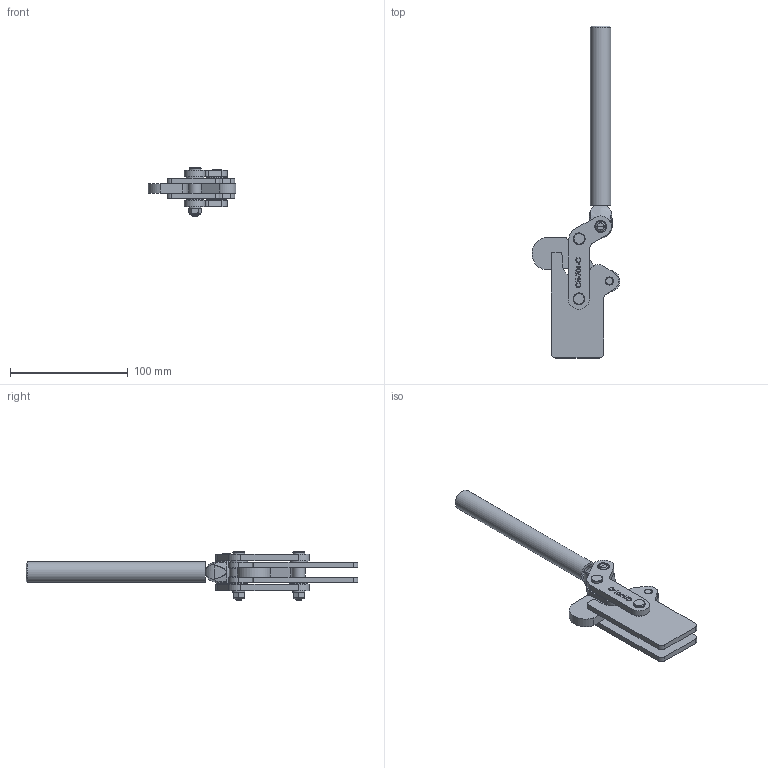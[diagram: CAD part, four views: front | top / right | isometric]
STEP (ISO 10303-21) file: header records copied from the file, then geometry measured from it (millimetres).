
FILE_DESCRIPTION(/* description */ ('STEP AP203'),/* implementation_level */ '2;1');
FILE_NAME(/* name */ 'D:\Vault_2016\Projekty\NASZ KATALOG\CLAMPTEK\STRONA\Heavy duty weldables\CH-701-C\CH-701-C_ZAMKNIETY.stp',/* time_stamp */ '2019-01-14T12:13:45+01:00',/* author */ ('CADENGINEERING4'),/* organization */ ('Î¢ÈíÖÐ¹ú'),/* preprocessor_version */ 'ST-DEVELOPER v17.2',/* originating_system */ 'Autodesk Inventor 2019',/* authorisation */ '');
FILE_SCHEMA (('AUTOMOTIVE_DESIGN { 1 0 10303 214 3 1 1 }'));
Length unit declared in the file: millimetre
Products named in the file (14): CH-701-C; 02-04-2_Ä¬ÈÏ; 02-09_Ä¬ÈÏ; 02-03_Ä¬ÈÏ; 02-05_Ä¬ÈÏ; 02-08_Ä¬ÈÏ; 02-06_Ä¬ÈÏ; 02-13_Ä¬ÈÏ; 02-12_Ä¬ÈÏ; 1-4·ÀËÉÂÝÄ¸_Ä¬
ÈÏ; 01-01_Ä¬ÈÏ; 702-C-10-1_Ä¬ÈÏ; 02-07_Ä¬ÈÏ; DIANPIAN_Ä¬ÈÏ
Assembly tree (22 placements, depth 2):
  CH-701-C
    02-13_Ä¬ÈÏ  x2
    02-04-2_Ä¬ÈÏ
    02-12_Ä¬ÈÏ  x2
    DIANPIAN_Ä¬ÈÏ  x4
    02-03_Ä¬ÈÏ  x2
    02-06_Ä¬ÈÏ  x2
    02-09_Ä¬ÈÏ
    02-05_Ä¬ÈÏ
    02-08_Ä¬ÈÏ
    02-07_Ä¬ÈÏ  x2
    1-4·ÀËÉÂÝÄ¸_Ä¬
ÈÏ  x2
    01-01_Ä¬ÈÏ
    702-C-10-1_Ä¬ÈÏ
Bounding box: 74.76 x 282.13 x 40.9 mm (x, y, z)
Volume: 93978.6 mm3; surface area: 60152 mm2
Topology: 25 solids, 25 shells, 2785 faces, 8055 edges, 5354 vertices
Faces by surface type: plane 1652, cylinder 874, bspline 201, cone 41, torus 17
Full cylindrical faces by diameter (mm): 1.286 x1, 1.46 x1, 4.2 x4, 5 x2, 6.35 x10, 6.85 x4, 6.9 x2, 7 x10, 7.25 x4, 8 x4, 9 x2, 9.4 x4, 9.5 x2, 10 x4, 11 x1, 11.5 x1, 13.3 x1, 15 x4, 15.9 x1, 17.3 x1
Entity records: 74873 total; most frequent: CARTESIAN_POINT 25478, ORIENTED_EDGE 10848, DIRECTION 9659, EDGE_CURVE 5424, VERTEX_POINT 3593, AXIS2_PLACEMENT_3D 3443, LINE 2773, VECTOR 2773
